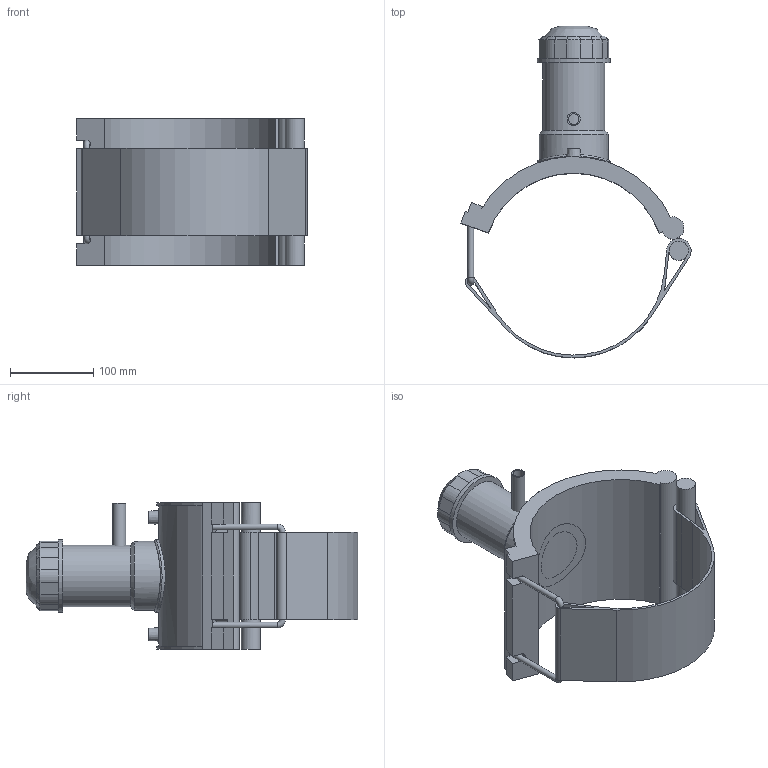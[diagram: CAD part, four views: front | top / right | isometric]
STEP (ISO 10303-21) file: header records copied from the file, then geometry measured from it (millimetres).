
FILE_DESCRIPTION(/* description */ ('PLASSON TAPPING SADDLE 8''''IPS x 1/2''''CTS'),/* implementation_level */ '2;1');
FILE_NAME(/* name */ 'C:\Dropbox\KIMPROJECTS-Inventor 2019\99-16-3568-Processing Inch\ASTM ElectroFusion 2021\5963BBP_5963BUP\5963BUP3080005.ipt.stp',/* time_stamp */ '2021-08-30T09:57:57+03:00',/* author */ ('KIM'),/* organization */ (''),/* preprocessor_version */ 'ST-DEVELOPER v17.2',/* originating_system */ 'Autodesk Inventor 2019',/* authorisation */ '');
FILE_SCHEMA (('AUTOMOTIVE_DESIGN { 1 0 10303 214 3 1 1 }'));
Length unit declared in the file: inch
Products named in the file (1): 5963BUP3080005
Bounding box: 276.84 x 399.02 x 176.02 mm (x, y, z)
Volume: 1801143.7 mm3; surface area: 351986.6 mm2
Topology: 3 solids, 3 shells, 124 faces, 315 edges, 205 vertices
Faces by surface type: plane 69, cylinder 40, cone 11, torus 2, bspline 2
Full cylindrical faces by diameter (mm): 4 x2, 6.998 x2, 10 x2, 12.64 x1, 15.8 x1, 23.048 x1, 61.236 x1, 74.358 x1, 83.106 x1, 87.48 x2
Entity records: 4260 total; most frequent: CARTESIAN_POINT 1120, DIRECTION 663, ORIENTED_EDGE 632, EDGE_CURVE 316, AXIS2_PLACEMENT_3D 241, VERTEX_POINT 205, LINE 181, VECTOR 181
